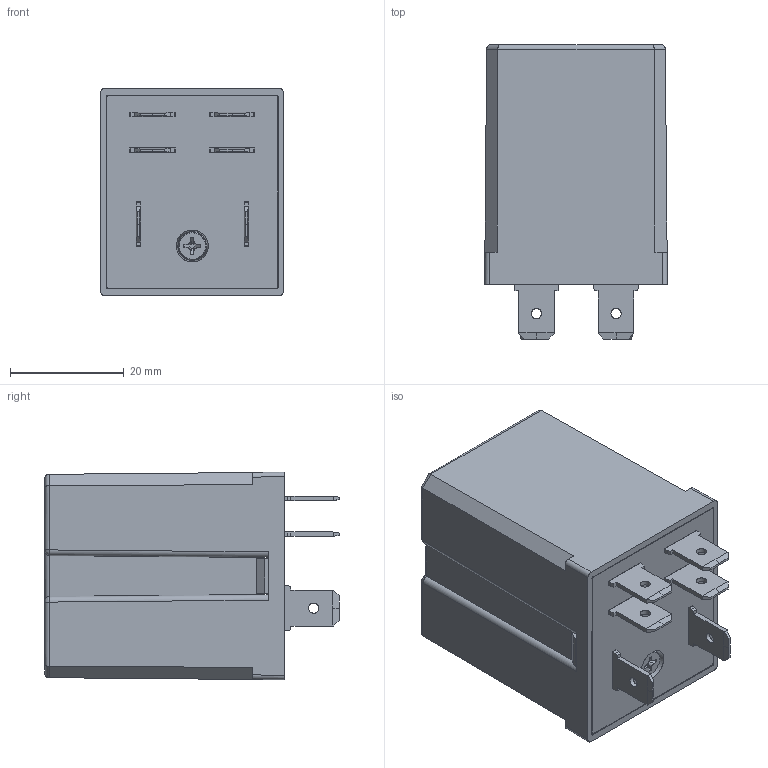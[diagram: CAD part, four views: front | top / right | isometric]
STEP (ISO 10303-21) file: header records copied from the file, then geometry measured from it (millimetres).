
FILE_DESCRIPTION(('STEP AP214'),'2;1');
FILE_NAME('6531xxxxx0009.stp','2013-09-16T10:31:58',(''),(''),'2007.1.106','THINKDESIGN','');
FILE_SCHEMA(('AUTOMOTIVE_DESIGN'));
Length unit declared in the file: millimetre
Products named in the file (1): top
Bounding box: 32.3 x 51.8 x 36.5 mm (x, y, z)
Surface area: 8827.3 mm2 (no closed solid volume)
Topology: 0 solids, 0 shells, 205 faces, 1107 edges, 1100 vertices
Faces by surface type: plane 123, bspline 50, cylinder 32
Full cylindrical faces by diameter (mm): 1.8 x6, 2 x1, 5 x1
Entity records: 10344 total; most frequent: CARTESIAN_POINT 4386, DIRECTION 1151, COMPOSITE_CURVE_SEGMENT 1102, TRIMMED_CURVE 799, VECTOR 787, LINE 787, STYLED_ITEM 215, OUTER_BOUNDARY_CURVE 205
